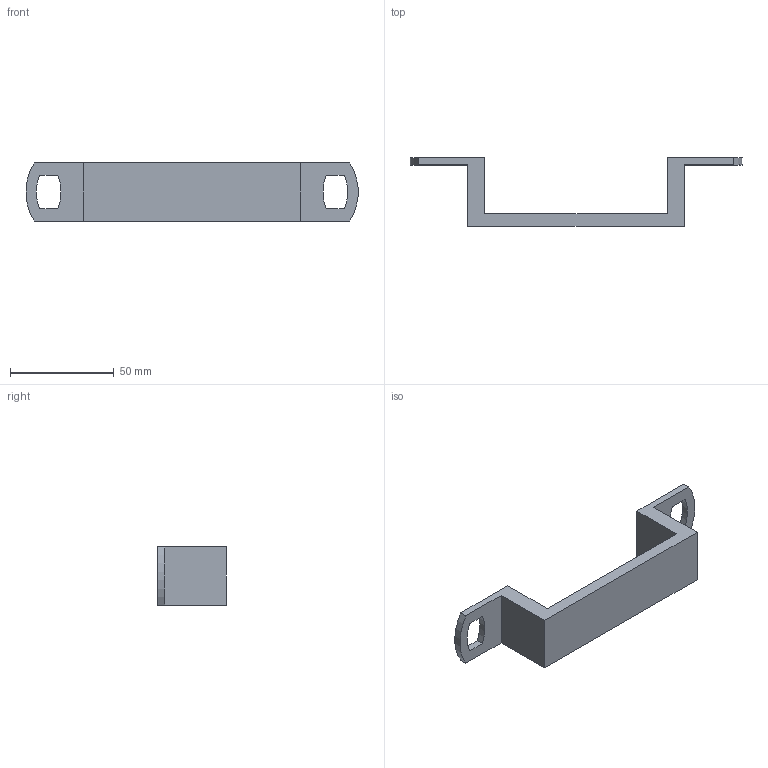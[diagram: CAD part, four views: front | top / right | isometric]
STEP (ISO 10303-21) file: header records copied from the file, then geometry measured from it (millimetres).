
FILE_DESCRIPTION( ( 'STEP AP214' ), '1' );
FILE_NAME( 'D:/Yug/2020/ProDecor_2020/QC/9266419.stp', '2020-06-01T11:48:03', ( '' ), ( '' ), ' ', 'PARTsolutions', ' ' );
FILE_SCHEMA( ( 'AUTOMOTIVE_DESIGN { 1 0 10303 214 1 1 1 1 }' ) );
Length unit declared in the file: millimetre
Products named in the file (1): _9266419
Bounding box: 159.83 x 33 x 28 mm (x, y, z)
Volume: 33375.2 mm3; surface area: 14484.9 mm2
Topology: 1 solids, 1 shells, 26 faces, 66 edges, 44 vertices
Faces by surface type: plane 18, cylinder 8
Full cylindrical faces by diameter (mm): 4 x2
Entity records: 1008 total; most frequent: CARTESIAN_POINT 135, DIRECTION 134, ORIENTED_EDGE 128, EDGE_CURVE 64, LINE 48, VECTOR 48, VERTEX_POINT 44, AXIS2_PLACEMENT_3D 43
